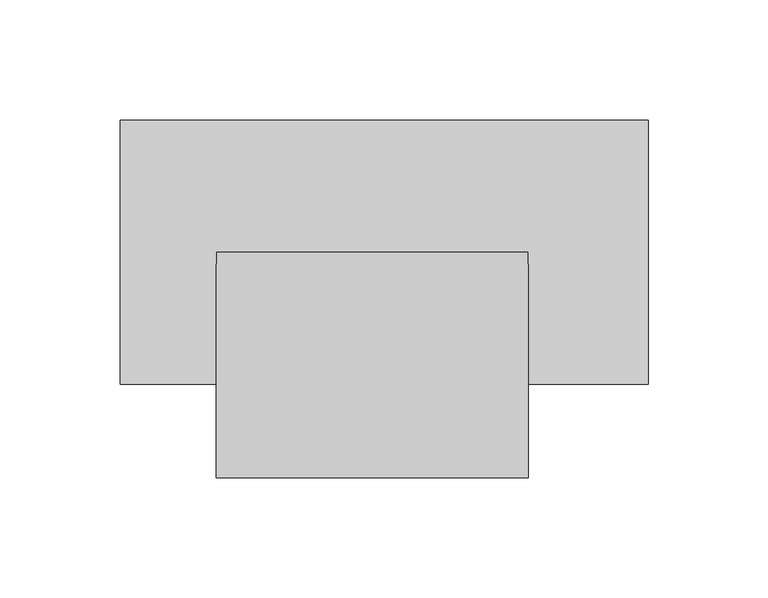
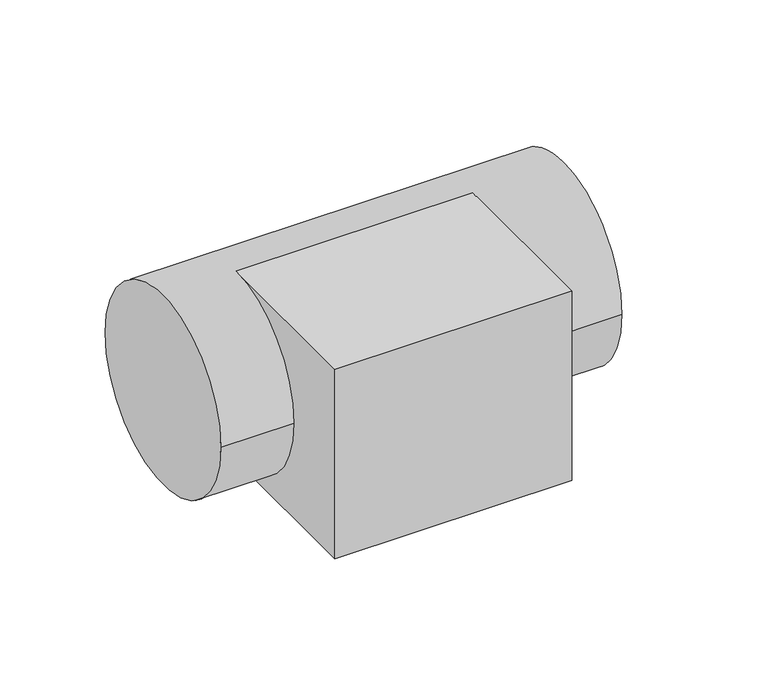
"""IFC4 building model written with IfcOpenShell, lengths in millimetres: valve geometry, D9900_満水継手 : 満水継手."""

import ifcopenshell
import ifcopenshell.guid

model = None  # the IFC model being written
_history = None  # IfcOwnerHistory: only IFC2X3 demands one
_inside = {}  # id of a spatial element -> (the spatial element, [elements in it])
_under = {}  # id of a project, library or spatial element -> (it, [spatial elements below it])
_declared = {}  # id of a project -> (the project, [libraries it declares])
_typed = {}  # id of a type object -> (the type object, [elements of that type])
_made_of = {}  # id of a material, layer set ... -> (it, [elements and type objects made of it])


def new_model(schema):
    """Start an empty IFC model of exactly this schema.

    Asked for "IFC4X3", IfcOpenShell would pick the latest addendum, in which some entities
    have other attributes; the version numbers below select the first issue.
    IFC2X3 requires an IfcOwnerHistory on every rooted entity: one is made here for all.
    """
    global model, _history
    if schema == "IFC4X3":
        model = ifcopenshell.file(schema_version=(4, 3, 0, 0))
    else:
        model = ifcopenshell.file(schema=schema)
    _inside.clear()
    _under.clear()
    _declared.clear()
    _typed.clear()
    _made_of.clear()
    _history = None
    if model.schema == "IFC2X3":
        org = make("IfcOrganization", Name="unknown")
        user = make(
            "IfcPersonAndOrganization",
            ThePerson=make("IfcPerson", FamilyName="unknown"),
            TheOrganization=org,
        )
        app = make(
            "IfcApplication",
            ApplicationDeveloper=org,
            Version="unknown",
            ApplicationFullName="unknown",
            ApplicationIdentifier="unknown",
        )
        _history = make(
            "IfcOwnerHistory",
            OwningUser=user,
            OwningApplication=app,
            ChangeAction="ADDED",
            CreationDate=0,
        )
    return model


def make(cls, **values):
    """One entity of the class cls with the attributes given. An attribute that is None is left unset."""
    return model.create_entity(
        cls, **{name: value for name, value in values.items() if value is not None}
    )


def rooted(cls, **values):
    """An entity with a GlobalId (a new one), such as an element, a storey or a relation."""
    return make(cls, GlobalId=ifcopenshell.guid.new(), OwnerHistory=_history, **values)


def si_unit(unit_type, name, prefix=None):
    """IfcSIUnit, for example si_unit("LENGTHUNIT", "METRE", prefix="MILLI")."""
    return make("IfcSIUnit", UnitType=unit_type, Prefix=prefix, Name=name)


def assignment(units):
    """IfcUnitAssignment: the units of a project."""
    return None if units is None else make("IfcUnitAssignment", Units=units)


def point(xyz):
    """IfcCartesianPoint."""
    return None if xyz is None else make("IfcCartesianPoint", Coordinates=xyz)


def direction(xyz):
    """IfcDirection."""
    return None if xyz is None else make("IfcDirection", DirectionRatios=xyz)


def frame(location, z_axis=None, x_axis=None):
    """IfcAxis2Placement3D, a coordinate frame: its origin and axes. An axis left out is left unset."""
    return make(
        "IfcAxis2Placement3D",
        Location=point(location),
        Axis=direction(z_axis),
        RefDirection=direction(x_axis),
    )


def origin():
    """The frame at (0, 0, 0) with its axes left unset."""
    return frame((0.0, 0.0, 0.0))


def place(relative_to, where):
    """IfcLocalPlacement: puts the frame where relative to a parent placement (None: the world)."""
    return make(
        "IfcLocalPlacement", PlacementRelTo=relative_to, RelativePlacement=where
    )


def context(
    kind, dimensions, precision=None, world=None, true_north=None, identifier=None
):
    """IfcGeometricRepresentationContext, for example the 3D "Model" context."""
    return make(
        "IfcGeometricRepresentationContext",
        ContextIdentifier=identifier,
        ContextType=kind,
        CoordinateSpaceDimension=dimensions,
        Precision=precision,
        WorldCoordinateSystem=world,
        TrueNorth=true_north,
    )


def project(units=None, contexts=None):
    """IfcProject with its units and contexts."""
    return rooted(
        "IfcProject",
        Name="project",
        RepresentationContexts=contexts,
        UnitsInContext=assignment(units),
    )


def spatial(cls, under=None, at=None, **own):
    """A site, building, storey or space (cls), placed at a placement, below another one or the project."""
    s = rooted(cls, ObjectPlacement=at, **own)
    if under is not None:
        _under.setdefault(under.id(), (under, []))[1].append(s)
    return s


def circle_curve(where, radius):
    """IfcCircle in the frame where."""
    return make("IfcCircle", Position=where, Radius=radius)


def shape(context_of_items, identifier, shape_type, items):
    """IfcShapeRepresentation: the items that make up one representation, for example the "Body"."""
    return make(
        "IfcShapeRepresentation",
        ContextOfItems=context_of_items,
        RepresentationIdentifier=identifier,
        RepresentationType=shape_type,
        Items=items,
    )


def source(mapping_origin, context_of_items, identifier, shape_type, items):
    """IfcRepresentationMap: a shape defined once, which mapped items show again and again."""
    return make(
        "IfcRepresentationMap",
        MappingOrigin=mapping_origin,
        MappedRepresentation=shape(context_of_items, identifier, shape_type, items),
    )


def transform(
    local_origin,
    x_axis=None,
    y_axis=None,
    z_axis=None,
    scale=None,
    scale2=None,
    scale3=None,
    uniform=True,
):
    """IfcCartesianTransformationOperator3D, or its non-uniform kind. x_axis, y_axis, z_axis: its Axis1, 2, 3."""
    if uniform:
        return make(
            "IfcCartesianTransformationOperator3D",
            Axis1=direction(x_axis),
            Axis2=direction(y_axis),
            LocalOrigin=point(local_origin),
            Scale=scale,
            Axis3=direction(z_axis),
        )
    return make(
        "IfcCartesianTransformationOperator3DnonUniform",
        Axis1=direction(x_axis),
        Axis2=direction(y_axis),
        LocalOrigin=point(local_origin),
        Scale=scale,
        Axis3=direction(z_axis),
        Scale2=scale2,
        Scale3=scale3,
    )


def mapped(mapping_source, mapping_target):
    """IfcMappedItem: shows the shape of a source again, moved by a transform."""
    return make(
        "IfcMappedItem", MappingSource=mapping_source, MappingTarget=mapping_target
    )


def made_of(thing, what):
    """Note that an element or type object is made of a material, layer set ...; save() writes the relation."""
    if what is not None:
        _made_of.setdefault(what.id(), (what, []))[1].append(thing)
    return thing


def element(
    cls,
    number,
    at=None,
    inside=None,
    cuts=None,
    type_object=None,
    material=None,
    context=None,
    identifier="Body",
    shape_type=None,
    held_by="IfcProductDefinitionShape",
    body=None,
    shapes=None,
    **own,
):
    """One element of the class cls, such as IfcWall. Its Tag is "e" and its number.

    at: its placement. inside: the storey or other place that contains it. cuts: it is an
    opening in that element (IfcRelVoidsElement). A single representation is given by context,
    identifier, shape_type and body (its items); several are given by shapes. held_by: the class
    of the entity that holds the representations. save() writes the other relations.
    """
    e = rooted(cls, Tag="e%d" % number, ObjectPlacement=at, **own)
    if body is not None:
        shapes = [shape(context, identifier, shape_type, body)]
    if shapes is not None:
        e.Representation = make(held_by, Representations=shapes)
    if inside is not None:
        _inside.setdefault(inside.id(), (inside, []))[1].append(e)
    if cuts is not None:
        rooted(
            "IfcRelVoidsElement", RelatingBuildingElement=cuts, RelatedOpeningElement=e
        )
    if type_object is not None:
        _typed.setdefault(type_object.id(), (type_object, []))[1].append(e)
    return made_of(e, material)


def aggregate(whole, parts):
    """IfcRelAggregates: a whole, such as a stair, and the parts it consists of."""
    return rooted("IfcRelAggregates", RelatingObject=whole, RelatedObjects=parts)


def save(model, path):
    """Write the relations noted so far, then the file.

    IfcRelAggregates (storeys below a building ...), IfcRelContainedInSpatialStructure (elements
    in a storey), IfcRelDefinesByType, IfcRelAssociatesMaterial and IfcRelDeclares: one each for
    every whole, place, type object, material and project.
    """
    for whole, parts in _under.values():
        aggregate(whole, parts)
    for where, things in _inside.values():
        rooted(
            "IfcRelContainedInSpatialStructure",
            RelatedElements=things,
            RelatingStructure=where,
        )
    for kind, things in _typed.values():
        rooted("IfcRelDefinesByType", RelatedObjects=things, RelatingType=kind)
    for what, things in _made_of.values():
        rooted("IfcRelAssociatesMaterial", RelatedObjects=things, RelatingMaterial=what)
    for by, libraries in _declared.values():
        rooted("IfcRelDeclares", RelatingContext=by, RelatedDefinitions=libraries)
    model.write(path)


def plane_surface(at):
    """IfcPlane: the flat surface through the origin of the frame at, square to its z axis."""
    return make("IfcPlane", Position=at)


def cylinder_surface(at, radius):
    """IfcCylindricalSurface: all points at the distance radius from the z axis of the frame at."""
    return make("IfcCylindricalSurface", Position=at, Radius=radius)


def advanced_brep(points, edges, surfaces, faces):
    """IfcAdvancedBrep: a solid bounded by faces that lie on surfaces and meet in shared edges.

    An edge is (start, end): straight between two places in points (the first is 0);
    or (start, end, curve); or (start, end, curve, False) where it runs against its curve.
    A face is (place in surfaces, loops), or (place, loops, False) where it looks against
    its surface's normal. A loop lists edges by number (the first is 1), with a minus sign
    where the edge is run from its end to its start. The first loop is the outer one.
    """
    corners = [point(p) for p in points]
    vertices = [make("IfcVertexPoint", VertexGeometry=c) for c in corners]
    made = []
    for start, end, *more in edges:
        made.append(
            make(
                "IfcEdgeCurve",
                EdgeStart=vertices[start],
                EdgeEnd=vertices[end],
                EdgeGeometry=more[0] if more else make("IfcPolyline", Points=[corners[start], corners[end]]),
                SameSense=more[1] if len(more) > 1 else True,
            )
        )
    hull = []
    for where, loops, *sense in faces:
        bounds = []
        for j, loop in enumerate(loops):
            ring = [make("IfcOrientedEdge", EdgeElement=made[abs(k) - 1], Orientation=k > 0) for k in loop]
            bounds.append(
                make(
                    "IfcFaceOuterBound" if j == 0 else "IfcFaceBound",
                    Bound=make("IfcEdgeLoop", EdgeList=ring),
                    Orientation=True,
                )
            )
        hull.append(make("IfcAdvancedFace", Bounds=bounds, FaceSurface=surfaces[where], SameSense=sense[0] if sense else True))
    return make("IfcAdvancedBrep", Outer=make("IfcClosedShell", CfsFaces=hull))


def valve_eeac5f53(model_context):
    return source(origin(), model_context, "Body", "AdvancedBrep", [
        advanced_brep(
        [(110.0, -55.0, 0.0), (110.0, 55.0, 0.0), (-110.0, -55.0, 0.0), (-110.0, 55.0, 0.0), (60.0, -55.0, 0.0), (60.0, 0.0, -55.0), (-70.0, 0.0, -55.0), (-70.0, -55.0, 0.0), (-70.0, 0.0, 55.0), (60.0, 0.0, 55.0), (60.0, -94.0, 55.0), (-70.0, -94.0, 55.0), (-70.0, -94.0, -55.0), (60.0, -94.0, -55.0)],
        [
            (0, 1, circle_curve(frame((110.0, 0.0, 0.0), z_axis=(1.0, 0.0, 0.0), x_axis=(0.0, 1.0, 0.0)), 55.0)),
            (1, 0, circle_curve(frame((110.0, 0.0, 0.0), z_axis=(1.0, 0.0, 0.0), x_axis=(0.0, 1.0, 0.0)), 55.0)),
            (2, 3, circle_curve(frame((-110.0, 0.0, 0.0), z_axis=(-1.0, 0.0, 0.0), x_axis=(0.0, 1.0, 0.0)), 55.0)),
            (3, 2, circle_curve(frame((-110.0, 0.0, 0.0), z_axis=(-1.0, 0.0, 0.0), x_axis=(0.0, 1.0, 0.0)), 55.0)),
            (0, 4),
            (4, 5, circle_curve(frame((60.0, 0.0, 0.0), z_axis=(1.0, 0.0, 0.0), x_axis=(0.0, 1.0, 0.0)), 55.0)),
            (5, 6),
            (6, 7, circle_curve(frame((-70.0, 0.0, 0.0), z_axis=(-1.0, 0.0, 0.0), x_axis=(0.0, 1.0, 0.0)), 55.0)),
            (7, 2),
            (3, 1),
            (7, 8, circle_curve(frame((-70.0, 0.0, 0.0), z_axis=(-1.0, 0.0, 0.0), x_axis=(0.0, 1.0, 0.0)), 55.0)),
            (8, 9),
            (9, 4, circle_curve(frame((60.0, 0.0, 0.0), z_axis=(1.0, 0.0, 0.0), x_axis=(0.0, 1.0, 0.0)), 55.0)),
            (10, 11),
            (11, 12),
            (12, 13),
            (13, 10),
            (10, 9),
            (8, 11),
            (6, 12),
            (5, 13),
        ],
        [
            plane_surface(frame((110.0, 55.0, 0.0), z_axis=(1.0, 0.0, 0.0), x_axis=(0.0, 0.0, 1.0))),
            plane_surface(frame((-110.0, 55.0, 0.0), z_axis=(-1.0, 0.0, 0.0), x_axis=(0.0, 0.0, -1.0))),
            cylinder_surface(frame((-110.0, 0.0, 0.0), z_axis=(1.0, 0.0, 0.0), x_axis=(0.0, 1.0, 0.0)), 55.0),
            plane_surface(frame((-70.0, -94.0, 55.0), z_axis=(0.0, -1.0, 0.0), x_axis=(-1.0, 0.0, 0.0))),
            plane_surface(frame((60.0, -94.0, 55.0), z_axis=(0.0, 0.0, 1.0), x_axis=(0.0, 1.0, 0.0))),
            plane_surface(frame((-70.0, -94.0, 55.0), z_axis=(-1.0, 0.0, 0.0), x_axis=(0.0, 1.0, 0.0))),
            plane_surface(frame((-70.0, -94.0, -55.0), z_axis=(0.0, 0.0, -1.0), x_axis=(0.0, 1.0, 0.0))),
            plane_surface(frame((60.0, -94.0, -55.0), z_axis=(1.0, 0.0, 0.0), x_axis=(0.0, 1.0, 0.0))),
        ],
        [
            (0, [[1, 2]]),
            (1, [[3, 4]]),
            (2, [[-1, 5, 6, 7, 8, 9, -4, 10]]),
            (2, [[-2, -10, -3, -9, 11, 12, 13, -5]]),
            (3, [[14, 15, 16, 17]]),
            (4, [[-14, 18, -12, 19]]),
            (5, [[-15, -19, -11, -8, 20]]),
            (6, [[-16, -20, -7, 21]]),
            (7, [[-17, -21, -6, -13, -18]]),
        ],
    ),
    ])


if __name__ == "__main__":
    model = new_model("IFC4")
    model_context = context("Model", 3, world=origin())
    ifc_project = project(units=[si_unit("LENGTHUNIT", "METRE", prefix="MILLI")], contexts=[model_context])
    site = spatial("IfcSite", under=ifc_project)
    building = spatial("IfcBuilding", under=site)
    placement = place(None, origin())
    valve_shape = valve_eeac5f53(model_context)
    element("IfcValve", 1, ObjectType="D9900_満水継手 : 満水継手", at=placement, inside=building, context=model_context, shape_type="MappedRepresentation", body=[
        mapped(valve_shape, transform((0.0, 0.0, 0.0), x_axis=(1.0, 0.0, 0.0), y_axis=(0.0, 1.0, 0.0), z_axis=(0.0, 0.0, 1.0))),
    ])
    save(model, "model.ifc")
